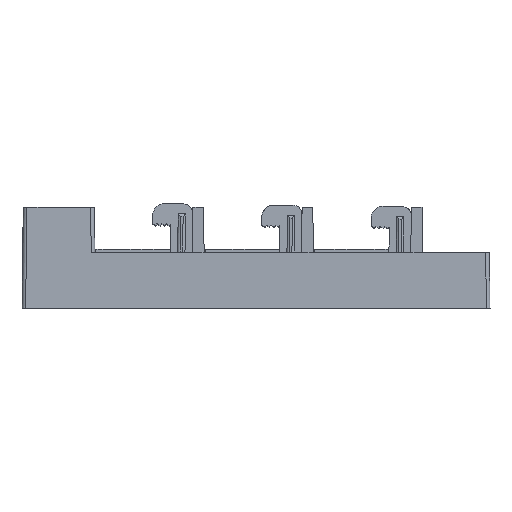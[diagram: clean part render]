
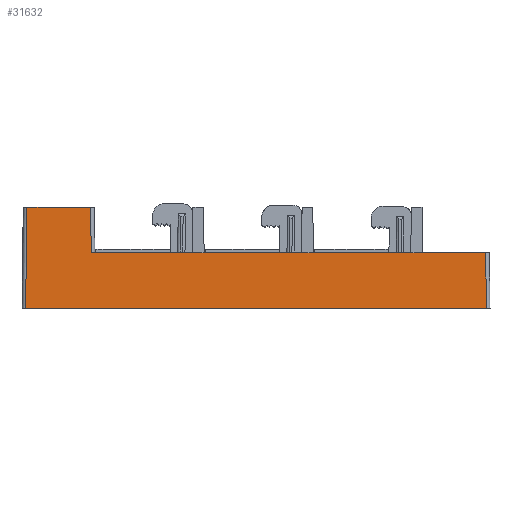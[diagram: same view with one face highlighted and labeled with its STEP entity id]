
A CAD part, left-side view. The second image highlights one B-rep face of the part: STEP entity #31632.
In plain terms, the highlighted planar face has unit normal (-1, 0, 0.012).
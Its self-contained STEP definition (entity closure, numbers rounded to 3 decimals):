
#730 = LINE ( 'NONE', #36168, #68114 ) ;
#1121 = CARTESIAN_POINT ( 'NONE',  ( -91.752, 122.216, 284.762 ) ) ;
#2790 = EDGE_CURVE ( 'NONE', #61909, #7706, #72199, .T. ) ;
#2971 = EDGE_CURVE ( 'NONE', #10352, #72474, #21125, .T. ) ;
#3580 = DIRECTION ( 'NONE',  ( 0., -1., 0. ) ) ;
#7706 = VERTEX_POINT ( 'NONE', #35848 ) ;
#7846 = ORIENTED_EDGE ( 'NONE', *, *, #40421, .T. ) ;
#7912 = LINE ( 'NONE', #52214, #72069 ) ;
#8060 = CARTESIAN_POINT ( 'NONE',  ( -92.057, -132.112, 259.762 ) ) ;
#9531 = CARTESIAN_POINT ( 'NONE',  ( -92.057, -132.112, 259.762 ) ) ;
#10152 = LINE ( 'NONE', #72532, #12071 ) ;
#10352 = VERTEX_POINT ( 'NONE', #27573 ) ;
#10971 = EDGE_CURVE ( 'NONE', #58018, #50556, #63742, .T. ) ;
#12071 = VECTOR ( 'NONE', #80700, 1000. ) ;
#12401 = DIRECTION ( 'NONE',  ( 0.012, 0.012, 1. ) ) ;
#13402 = DIRECTION ( 'NONE',  ( 0., 1., 0. ) ) ;
#13668 = DIRECTION ( 'NONE',  ( 0., 1., 0. ) ) ;
#14023 = ORIENTED_EDGE ( 'NONE', *, *, #10971, .T. ) ;
#15196 = ORIENTED_EDGE ( 'NONE', *, *, #26628, .T. ) ;
#15422 = DIRECTION ( 'NONE',  ( 0., 1., 0. ) ) ;
#17596 = CARTESIAN_POINT ( 'NONE',  ( -92.057, -95.112, 259.762 ) ) ;
#18581 = VECTOR ( 'NONE', #13402, 1000. ) ;
#18876 = VECTOR ( 'NONE', #22012, 1000. ) ;
#18965 = ORIENTED_EDGE ( 'NONE', *, *, #2790, .T. ) ;
#19670 = ORIENTED_EDGE ( 'NONE', *, *, #88171, .T. ) ;
#19810 = ORIENTED_EDGE ( 'NONE', *, *, #62970, .T. ) ;
#19995 = ORIENTED_EDGE ( 'NONE', *, *, #25964, .T. ) ;
#20071 = CARTESIAN_POINT ( 'NONE',  ( -92.057, -132.112, 259.762 ) ) ;
#21125 = LINE ( 'NONE', #41812, #80899 ) ;
#21979 = CARTESIAN_POINT ( 'NONE',  ( -92.057, 86.888, 259.762 ) ) ;
#22012 = DIRECTION ( 'NONE',  ( 0., 1., 0. ) ) ;
#22156 = ORIENTED_EDGE ( 'NONE', *, *, #34453, .T. ) ;
#25964 = EDGE_CURVE ( 'NONE', #36385, #10352, #56759, .T. ) ;
#26628 = EDGE_CURVE ( 'NONE', #7706, #36385, #39253, .T. ) ;
#27445 = ORIENTED_EDGE ( 'NONE', *, *, #79680, .T. ) ;
#27573 = CARTESIAN_POINT ( 'NONE',  ( -92.057, -88.612, 259.762 ) ) ;
#28722 = VECTOR ( 'NONE', #12401, 1000. ) ;
#28909 = DIRECTION ( 'NONE',  ( 0., 1., 0. ) ) ;
#29323 = CARTESIAN_POINT ( 'NONE',  ( -92.057, -28.612, 259.762 ) ) ;
#29337 = EDGE_CURVE ( 'NONE', #73142, #73650, #10152, .T. ) ;
#31300 = LINE ( 'NONE', #50487, #74735 ) ;
#31349 = CARTESIAN_POINT ( 'NONE',  ( -92.057, 24.888, 259.762 ) ) ;
#31632 = ADVANCED_FACE ( 'NONE', ( #34410 ), #80260, .T. ) ;
#32014 = CARTESIAN_POINT ( 'NONE',  ( -92.424, -132.112, 229.762 ) ) ;
#32472 = VERTEX_POINT ( 'NONE', #1121 ) ;
#34410 = FACE_OUTER_BOUND ( 'NONE', #48556, .T. ) ;
#34453 = EDGE_CURVE ( 'NONE', #54890, #61909, #7912, .T. ) ;
#35848 = CARTESIAN_POINT ( 'NONE',  ( -92.057, -129.746, 259.762 ) ) ;
#36168 = CARTESIAN_POINT ( 'NONE',  ( -91.752, -132.112, 284.762 ) ) ;
#36385 = VERTEX_POINT ( 'NONE', #17596 ) ;
#38368 = DIRECTION ( 'NONE',  ( -1., 0., 0.012 ) ) ;
#38870 = CARTESIAN_POINT ( 'NONE',  ( -91.752, 122.216, 284.762 ) ) ;
#39253 = LINE ( 'NONE', #82890, #18581 ) ;
#39337 = VECTOR ( 'NONE', #13668, 1000. ) ;
#40421 = EDGE_CURVE ( 'NONE', #50556, #66108, #31300, .T. ) ;
#40903 = EDGE_CURVE ( 'NONE', #73650, #32472, #730, .T. ) ;
#41812 = CARTESIAN_POINT ( 'NONE',  ( -92.057, -132.112, 259.762 ) ) ;
#44892 = CARTESIAN_POINT ( 'NONE',  ( -92.057, 31.388, 259.762 ) ) ;
#47963 = CARTESIAN_POINT ( 'NONE',  ( -92.057, -35.112, 259.762 ) ) ;
#48017 = AXIS2_PLACEMENT_3D ( 'NONE', #32014, #38368, #52983 ) ;
#48556 = EDGE_LOOP ( 'NONE', ( #15196, #19995, #52157, #19810, #14023, #7846, #19670, #82018, #76196, #27445, #22156, #18965 ) ) ;
#50444 = LINE ( 'NONE', #8060, #18876 ) ;
#50487 = CARTESIAN_POINT ( 'NONE',  ( -92.057, -132.112, 259.762 ) ) ;
#50556 = VERTEX_POINT ( 'NONE', #31349 ) ;
#52157 = ORIENTED_EDGE ( 'NONE', *, *, #2971, .T. ) ;
#52193 = CARTESIAN_POINT ( 'NONE',  ( -92.43, -130.118, 229.262 ) ) ;
#52214 = CARTESIAN_POINT ( 'NONE',  ( -92.43, -132.112, 229.262 ) ) ;
#52983 = DIRECTION ( 'NONE',  ( 0.012, 0., 1. ) ) ;
#54890 = VERTEX_POINT ( 'NONE', #87143 ) ;
#55100 = VECTOR ( 'NONE', #57534, 1000. ) ;
#56759 = LINE ( 'NONE', #20071, #39337 ) ;
#57534 = DIRECTION ( 'NONE',  ( 0., 1., 0. ) ) ;
#58018 = VERTEX_POINT ( 'NONE', #29323 ) ;
#61909 = VERTEX_POINT ( 'NONE', #63509 ) ;
#62970 = EDGE_CURVE ( 'NONE', #72474, #58018, #50444, .T. ) ;
#63509 = CARTESIAN_POINT ( 'NONE',  ( -92.43, -130.118, 229.262 ) ) ;
#63698 = CARTESIAN_POINT ( 'NONE',  ( -92.057, -132.112, 259.762 ) ) ;
#63742 = LINE ( 'NONE', #9531, #55100 ) ;
#63950 = DIRECTION ( 'NONE',  ( 0., 1., 0. ) ) ;
#65357 = VECTOR ( 'NONE', #15422, 1000. ) ;
#66108 = VERTEX_POINT ( 'NONE', #44892 ) ;
#68114 = VECTOR ( 'NONE', #28909, 1000. ) ;
#70778 = DIRECTION ( 'NONE',  ( 0., 1., 0. ) ) ;
#72069 = VECTOR ( 'NONE', #3580, 1000. ) ;
#72199 = LINE ( 'NONE', #52193, #28722 ) ;
#72474 = VERTEX_POINT ( 'NONE', #47963 ) ;
#72532 = CARTESIAN_POINT ( 'NONE',  ( -92.057, 86.888, 259.762 ) ) ;
#73142 = VERTEX_POINT ( 'NONE', #21979 ) ;
#73466 = DIRECTION ( 'NONE',  ( -0.012, 0.012, -1. ) ) ;
#73650 = VERTEX_POINT ( 'NONE', #78681 ) ;
#74735 = VECTOR ( 'NONE', #70778, 1000. ) ;
#76196 = ORIENTED_EDGE ( 'NONE', *, *, #40903, .T. ) ;
#76213 = LINE ( 'NONE', #63698, #65357 ) ;
#77300 = VECTOR ( 'NONE', #73466, 1000. ) ;
#78681 = CARTESIAN_POINT ( 'NONE',  ( -91.752, 87.193, 284.762 ) ) ;
#79514 = LINE ( 'NONE', #38870, #77300 ) ;
#79680 = EDGE_CURVE ( 'NONE', #32472, #54890, #79514, .T. ) ;
#80260 = PLANE ( 'NONE',  #48017 ) ;
#80700 = DIRECTION ( 'NONE',  ( 0.012, 0.012, 1. ) ) ;
#80899 = VECTOR ( 'NONE', #63950, 1000. ) ;
#82018 = ORIENTED_EDGE ( 'NONE', *, *, #29337, .T. ) ;
#82890 = CARTESIAN_POINT ( 'NONE',  ( -92.057, -132.112, 259.762 ) ) ;
#87143 = CARTESIAN_POINT ( 'NONE',  ( -92.43, 122.894, 229.262 ) ) ;
#88171 = EDGE_CURVE ( 'NONE', #66108, #73142, #76213, .T. ) ;
